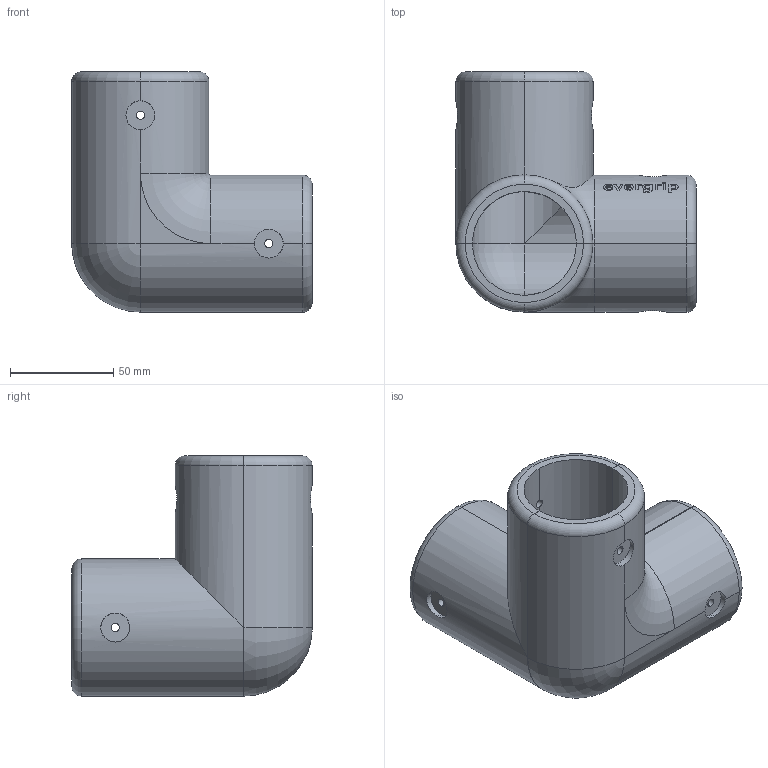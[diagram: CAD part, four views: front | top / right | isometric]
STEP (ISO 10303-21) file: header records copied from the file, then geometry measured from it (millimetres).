
FILE_DESCRIPTION (( 'STEP AP203' ), '1' );
FILE_NAME ('KIE_018.A17.STEP', '2025-02-25T09:15:45', ( '' ), ( '' ), 'SwSTEP 2.0', 'SolidWorks 2023', '' );
FILE_SCHEMA (( 'CONFIG_CONTROL_DESIGN' ));
Length unit declared in the file: millimetre
Products named in the file (1): KIE_018.A17
Bounding box: 116.3 x 116.3 x 116.3 mm (x, y, z)
Volume: 299103.7 mm3; surface area: 85141.4 mm2
Topology: 2 solids, 2 shells, 94 faces, 379 edges, 299 vertices
Faces by surface type: cylinder 57, plane 21, torus 16
Entity records: 7612 total; most frequent: CARTESIAN_POINT 4568, ORIENTED_EDGE 758, DIRECTION 456, EDGE_CURVE 379, VERTEX_POINT 299, B_SPLINE_CURVE_WITH_KNOTS 208, AXIS2_PLACEMENT_3D 190, EDGE_LOOP 118
